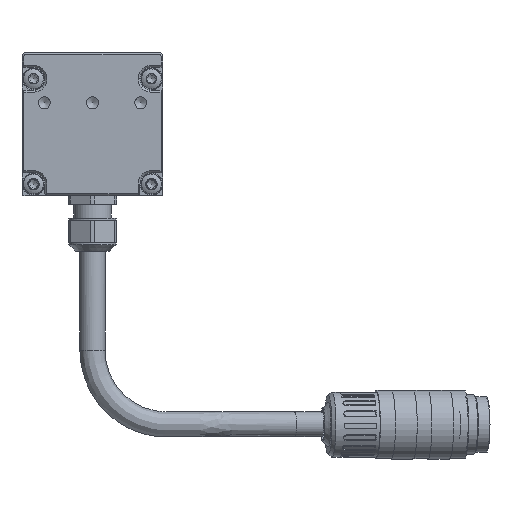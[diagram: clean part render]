
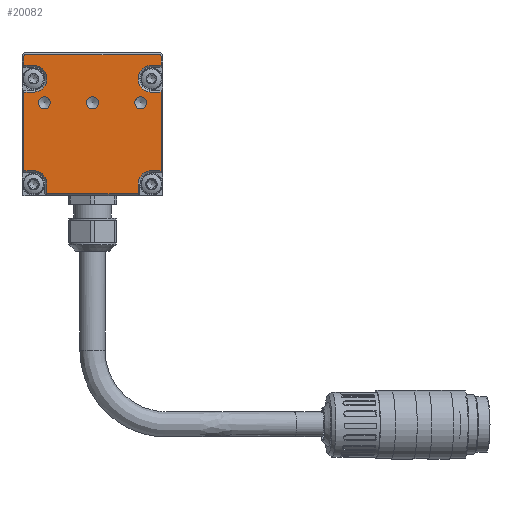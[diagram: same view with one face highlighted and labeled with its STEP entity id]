
A CAD part, left-side view. The second image highlights one B-rep face of the part: STEP entity #20082.
In plain terms, the highlighted planar face has unit normal (-1, 0, 0).
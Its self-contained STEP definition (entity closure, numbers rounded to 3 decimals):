
#880=LINE('',#27913,#1882);
#882=LINE('',#27917,#1884);
#886=LINE('',#27925,#1888);
#889=LINE('',#27931,#1891);
#891=LINE('',#27936,#1893);
#895=LINE('',#27944,#1897);
#897=LINE('',#27948,#1899);
#901=LINE('',#27957,#1903);
#903=LINE('',#27962,#1905);
#906=LINE('',#27970,#1908);
#909=LINE('',#27976,#1911);
#912=LINE('',#27984,#1914);
#916=LINE('',#27992,#1918);
#919=LINE('',#27999,#1921);
#1882=VECTOR('',#23214,1000.);
#1884=VECTOR('',#23218,1000.);
#1888=VECTOR('',#23224,1000.);
#1891=VECTOR('',#23229,1000.);
#1893=VECTOR('',#23235,1000.);
#1897=VECTOR('',#23241,1000.);
#1899=VECTOR('',#23247,1000.);
#1903=VECTOR('',#23257,1000.);
#1905=VECTOR('',#23265,1000.);
#1908=VECTOR('',#23274,1000.);
#1911=VECTOR('',#23283,1000.);
#1914=VECTOR('',#23292,1000.);
#1918=VECTOR('',#23302,1000.);
#1921=VECTOR('',#23311,1000.);
#2682=PLANE('',#21147);
#3923=ORIENTED_EDGE('',*,*,#7674,.T.);
#3924=ORIENTED_EDGE('',*,*,#7675,.T.);
#3925=ORIENTED_EDGE('',*,*,#7676,.T.);
#3926=ORIENTED_EDGE('',*,*,#7648,.T.);
#3927=ORIENTED_EDGE('',*,*,#7645,.T.);
#3928=ORIENTED_EDGE('',*,*,#7639,.T.);
#3929=ORIENTED_EDGE('',*,*,#7656,.T.);
#3930=ORIENTED_EDGE('',*,*,#7654,.T.);
#3931=ORIENTED_EDGE('',*,*,#7652,.T.);
#3932=ORIENTED_EDGE('',*,*,#7630,.T.);
#3933=ORIENTED_EDGE('',*,*,#7663,.T.);
#3934=ORIENTED_EDGE('',*,*,#7661,.T.);
#3935=ORIENTED_EDGE('',*,*,#7659,.T.);
#3936=ORIENTED_EDGE('',*,*,#7628,.T.);
#3937=ORIENTED_EDGE('',*,*,#7673,.F.);
#3938=ORIENTED_EDGE('',*,*,#7643,.T.);
#3939=ORIENTED_EDGE('',*,*,#7672,.F.);
#3940=ORIENTED_EDGE('',*,*,#7637,.T.);
#3941=ORIENTED_EDGE('',*,*,#7671,.T.);
#3942=ORIENTED_EDGE('',*,*,#7669,.T.);
#3943=ORIENTED_EDGE('',*,*,#7667,.T.);
#3944=ORIENTED_EDGE('',*,*,#7634,.T.);
#3945=ORIENTED_EDGE('',*,*,#7650,.T.);
#7628=EDGE_CURVE('',#9566,#9567,#880,.T.);
#7630=EDGE_CURVE('',#9569,#9568,#882,.T.);
#7634=EDGE_CURVE('',#9570,#9571,#886,.T.);
#7637=EDGE_CURVE('',#9572,#9573,#889,.T.);
#7639=EDGE_CURVE('',#9575,#9574,#891,.T.);
#7643=EDGE_CURVE('',#9576,#9577,#895,.T.);
#7645=EDGE_CURVE('',#9578,#9575,#897,.T.);
#7648=EDGE_CURVE('',#9579,#9578,#10697,.T.);
#7650=EDGE_CURVE('',#9571,#9579,#901,.T.);
#7652=EDGE_CURVE('',#9580,#9569,#903,.T.);
#7654=EDGE_CURVE('',#9581,#9580,#10698,.T.);
#7656=EDGE_CURVE('',#9574,#9581,#906,.T.);
#7659=EDGE_CURVE('',#9582,#9566,#909,.T.);
#7661=EDGE_CURVE('',#9583,#9582,#10699,.T.);
#7663=EDGE_CURVE('',#9568,#9583,#912,.T.);
#7667=EDGE_CURVE('',#9584,#9570,#916,.T.);
#7669=EDGE_CURVE('',#9585,#9584,#10700,.T.);
#7671=EDGE_CURVE('',#9573,#9585,#919,.T.);
#7672=EDGE_CURVE('',#9572,#9577,#10701,.T.);
#7673=EDGE_CURVE('',#9576,#9567,#10702,.T.);
#7674=EDGE_CURVE('',#9586,#9586,#10703,.T.);
#7675=EDGE_CURVE('',#9587,#9587,#10704,.T.);
#7676=EDGE_CURVE('',#9588,#9588,#10705,.T.);
#9566=VERTEX_POINT('',#27910);
#9567=VERTEX_POINT('',#27912);
#9568=VERTEX_POINT('',#27916);
#9569=VERTEX_POINT('',#27918);
#9570=VERTEX_POINT('',#27922);
#9571=VERTEX_POINT('',#27924);
#9572=VERTEX_POINT('',#27928);
#9573=VERTEX_POINT('',#27930);
#9574=VERTEX_POINT('',#27935);
#9575=VERTEX_POINT('',#27937);
#9576=VERTEX_POINT('',#27941);
#9577=VERTEX_POINT('',#27943);
#9578=VERTEX_POINT('',#27949);
#9579=VERTEX_POINT('',#27953);
#9580=VERTEX_POINT('',#27963);
#9581=VERTEX_POINT('',#27967);
#9582=VERTEX_POINT('',#27977);
#9583=VERTEX_POINT('',#27981);
#9584=VERTEX_POINT('',#27991);
#9585=VERTEX_POINT('',#27995);
#9586=VERTEX_POINT('',#28007);
#9587=VERTEX_POINT('',#28009);
#9588=VERTEX_POINT('',#28011);
#10697=CIRCLE('',#21122,3.6);
#10698=CIRCLE('',#21128,3.6);
#10699=CIRCLE('',#21134,3.6);
#10700=CIRCLE('',#21140,3.6);
#10701=CIRCLE('',#21144,0.5);
#10702=CIRCLE('',#21146,0.5);
#10703=CIRCLE('',#21148,1.621);
#10704=CIRCLE('',#21149,1.621);
#10705=CIRCLE('',#21150,1.621);
#11388=EDGE_LOOP('',(#3923));
#11389=EDGE_LOOP('',(#3924));
#11390=EDGE_LOOP('',(#3925));
#11391=EDGE_LOOP('',(#3926,#3927,#3928,#3929,#3930,#3931,#3932,#3933,#3934,
#3935,#3936,#3937,#3938,#3939,#3940,#3941,#3942,#3943,#3944,#3945));
#12478=FACE_BOUND('',#11388,.T.);
#12479=FACE_BOUND('',#11389,.T.);
#12480=FACE_BOUND('',#11390,.T.);
#12481=FACE_BOUND('',#11391,.T.);
#20082=ADVANCED_FACE('',(#12478,#12479,#12480,#12481),#2682,.F.);
#21122=AXIS2_PLACEMENT_3D('',#27954,#23252,#23253);
#21128=AXIS2_PLACEMENT_3D('',#27966,#23269,#23270);
#21134=AXIS2_PLACEMENT_3D('',#27980,#23287,#23288);
#21140=AXIS2_PLACEMENT_3D('',#27996,#23306,#23307);
#21144=AXIS2_PLACEMENT_3D('',#28002,#23316,#23317);
#21146=AXIS2_PLACEMENT_3D('',#28004,#23320,#23321);
#21147=AXIS2_PLACEMENT_3D('',#28005,#23322,#23323);
#21148=AXIS2_PLACEMENT_3D('',#28006,#23324,#23325);
#21149=AXIS2_PLACEMENT_3D('',#28008,#23326,#23327);
#21150=AXIS2_PLACEMENT_3D('',#28010,#23328,#23329);
#23214=DIRECTION('',(0.,0.,1.));
#23218=DIRECTION('',(0.,0.,1.));
#23224=DIRECTION('',(0.,0.,-1.));
#23229=DIRECTION('',(0.,0.,-1.));
#23235=DIRECTION('',(0.,-1.,0.));
#23241=DIRECTION('',(0.,1.,0.));
#23247=DIRECTION('',(0.,0.,-1.));
#23252=DIRECTION('',(1.,0.,0.));
#23253=DIRECTION('',(0.,1.,0.));
#23257=DIRECTION('',(0.,-1.,0.));
#23265=DIRECTION('',(0.,-1.,0.));
#23269=DIRECTION('',(1.,0.,0.));
#23270=DIRECTION('',(0.,1.,0.));
#23274=DIRECTION('',(0.,0.,1.));
#23283=DIRECTION('',(0.,-1.,0.));
#23287=DIRECTION('',(1.,0.,0.));
#23288=DIRECTION('',(0.,1.,0.));
#23292=DIRECTION('',(0.,1.,0.));
#23302=DIRECTION('',(0.,1.,0.));
#23306=DIRECTION('',(1.,0.,0.));
#23307=DIRECTION('',(0.,1.,0.));
#23311=DIRECTION('',(0.,-1.,0.));
#23316=DIRECTION('',(1.,0.,0.));
#23317=DIRECTION('',(0.,1.,0.));
#23320=DIRECTION('',(1.,0.,0.));
#23321=DIRECTION('',(0.,1.,0.));
#23322=DIRECTION('',(1.,0.,0.));
#23323=DIRECTION('',(0.,1.,0.));
#23324=DIRECTION('',(1.,0.,0.));
#23325=DIRECTION('',(0.,-1.,0.));
#23326=DIRECTION('',(1.,0.,0.));
#23327=DIRECTION('',(0.,-1.,0.));
#23328=DIRECTION('',(1.,0.,0.));
#23329=DIRECTION('',(0.,-1.,0.));
#27910=CARTESIAN_POINT('',(-514.998,-18.5,35.119));
#27912=CARTESIAN_POINT('',(-514.998,-18.5,37.519));
#27913=CARTESIAN_POINT('',(-514.998,-18.5,0.019));
#27916=CARTESIAN_POINT('',(-514.998,-18.5,27.919));
#27917=CARTESIAN_POINT('',(-514.998,-18.5,0.019));
#27918=CARTESIAN_POINT('',(-514.998,-18.5,6.719));
#27922=CARTESIAN_POINT('',(-514.998,18.5,27.919));
#27924=CARTESIAN_POINT('',(-514.998,18.5,6.719));
#27925=CARTESIAN_POINT('',(-514.998,18.5,0.019));
#27928=CARTESIAN_POINT('',(-514.998,18.5,37.519));
#27930=CARTESIAN_POINT('',(-514.998,18.5,35.119));
#27931=CARTESIAN_POINT('',(-514.998,18.5,0.019));
#27935=CARTESIAN_POINT('',(-514.998,-12.3,0.519));
#27936=CARTESIAN_POINT('',(-514.998,-12.3,0.519));
#27937=CARTESIAN_POINT('',(-514.998,12.3,0.519));
#27941=CARTESIAN_POINT('',(-514.998,-18.,38.019));
#27943=CARTESIAN_POINT('',(-514.998,18.,38.019));
#27944=CARTESIAN_POINT('',(-514.998,-19.,38.019));
#27948=CARTESIAN_POINT('',(-514.998,12.3,0.019));
#27949=CARTESIAN_POINT('',(-514.998,12.3,3.119));
#27953=CARTESIAN_POINT('',(-514.998,15.9,6.719));
#27954=CARTESIAN_POINT('',(-514.998,15.9,3.119));
#27957=CARTESIAN_POINT('',(-514.998,-19.,6.719));
#27962=CARTESIAN_POINT('',(-514.998,-19.,6.719));
#27963=CARTESIAN_POINT('',(-514.998,-15.9,6.719));
#27966=CARTESIAN_POINT('',(-514.998,-15.9,3.119));
#27967=CARTESIAN_POINT('',(-514.998,-12.3,3.119));
#27970=CARTESIAN_POINT('',(-514.998,-12.3,0.019));
#27976=CARTESIAN_POINT('',(-514.998,-19.,35.119));
#27977=CARTESIAN_POINT('',(-514.998,-15.9,35.119));
#27980=CARTESIAN_POINT('',(-514.998,-15.9,31.519));
#27981=CARTESIAN_POINT('',(-514.998,-15.9,27.919));
#27984=CARTESIAN_POINT('',(-514.998,-19.,27.919));
#27991=CARTESIAN_POINT('',(-514.998,15.9,27.919));
#27992=CARTESIAN_POINT('',(-514.998,-19.,27.919));
#27995=CARTESIAN_POINT('',(-514.998,15.9,35.119));
#27996=CARTESIAN_POINT('',(-514.998,15.9,31.519));
#27999=CARTESIAN_POINT('',(-514.998,-19.,35.119));
#28002=CARTESIAN_POINT('',(-514.998,18.,37.519));
#28004=CARTESIAN_POINT('',(-514.998,-18.,37.519));
#28005=CARTESIAN_POINT('',(-514.998,-19.,0.019));
#28006=CARTESIAN_POINT('',(-514.998,13.,25.019));
#28007=CARTESIAN_POINT('',(-514.998,11.379,25.019));
#28008=CARTESIAN_POINT('',(-514.998,0.,25.019));
#28009=CARTESIAN_POINT('',(-514.998,-1.621,25.019));
#28010=CARTESIAN_POINT('',(-514.998,-13.,25.019));
#28011=CARTESIAN_POINT('',(-514.998,-14.621,25.019));
